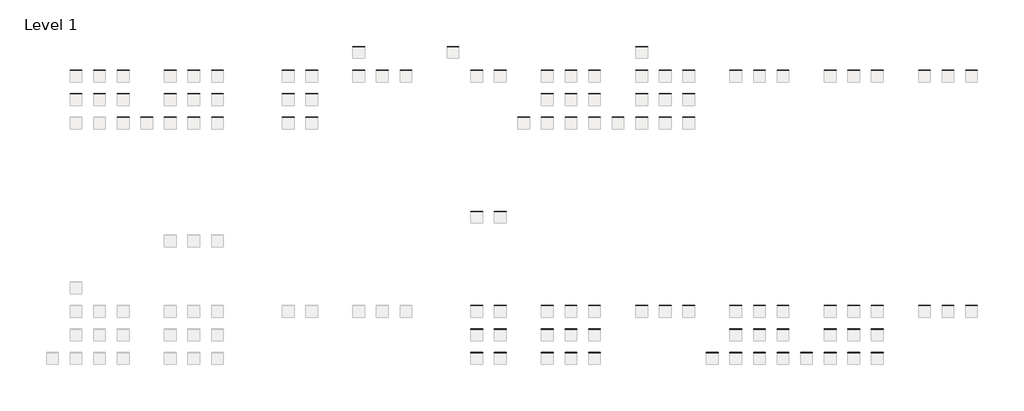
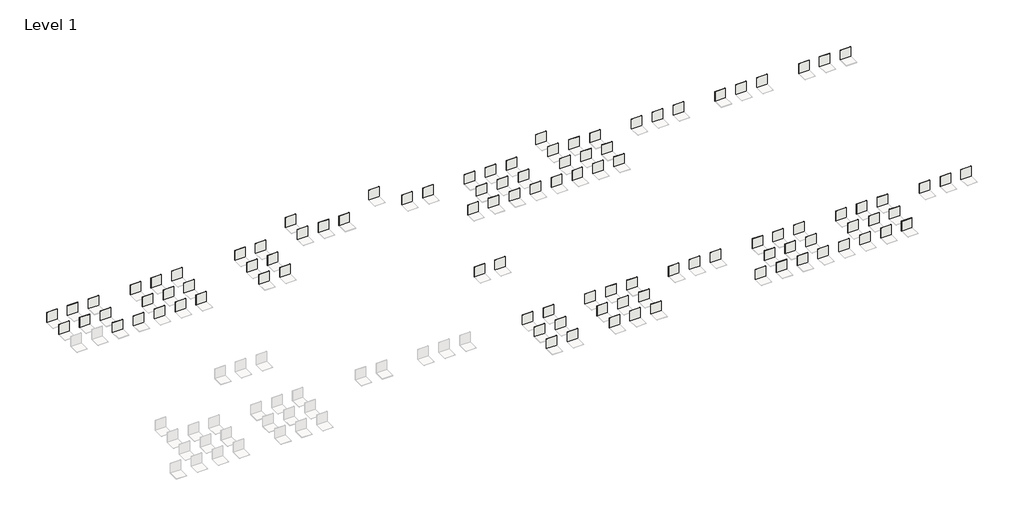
# One storey, part 2 of 4: 103 coverings.
"""IFC4 building model written with IfcOpenShell, lengths in millimetres."""

from ifc_helpers import new_model, si_unit, origin, origin_with_axes, place, context, project, spatial, polyline, outline, extrude, element, save

model = new_model("IFC4")

# Units and contexts
model_context = context("Model", 3, world=origin())
ifc_project = project(units=[si_unit("LENGTHUNIT", "METRE", prefix="MILLI")], contexts=[model_context])

# Site, building, storey
site = spatial("IfcSite", under=ifc_project)
building = spatial("IfcBuilding", under=site)
storey = spatial("IfcBuildingStorey", under=building, Name="Level 1", Elevation=0.0)

# Coverings
placement = place(None, origin())
element("IfcCovering", 1, ObjectType="REVIGRÉS-CROMATICA-BASE-29,7x59,2-MATTRECT-Cromatica_alloy", at=placement, inside=storey, context=model_context, shape_type="SweptSolid", body=[
    extrude(outline(polyline([(3002.0475963, 29398.4324289), (2002.0475963, 29398.4324289), (2002.0475963, 29406.9324289), (3002.0475963, 29406.9324289), (3002.0475963, 29398.4324289)])), origin_with_axes(), (0.0, 0.0, 1.0), 1000.0),
])
element("IfcCovering", 2, ObjectType="REVIGRÉS-CROMATICA-BASE-59,2x59,2-MATTRECT-Cromatica_alloy", at=placement, inside=storey, context=model_context, shape_type="SweptSolid", body=[
    extrude(outline(polyline([(3002.0475963, 31398.4324289), (2002.0475963, 31398.4324289), (2002.0475963, 31406.9324289), (3002.0475963, 31406.9324289), (3002.0475963, 31398.4324289)])), origin_with_axes(), (0.0, 0.0, 1.0), 1000.0),
])
element("IfcCovering", 3, ObjectType="REVIGRÉS-CROMATICA-BASE-29,7x59,2-POL-Cromatica_alloy", at=placement, inside=storey, context=model_context, shape_type="SweptSolid", body=[
    extrude(outline(polyline([(5002.0475963, 29398.4324289), (4002.0475963, 29398.4324289), (4002.0475963, 29406.4324289), (5002.0475963, 29406.4324289), (5002.0475963, 29398.4324289)])), origin_with_axes(), (0.0, 0.0, 1.0), 1000.0),
])
element("IfcCovering", 4, ObjectType="REVIGRÉS-CROMATICA-BASE-59,2x59,2-POL-Cromatica_alloy", at=placement, inside=storey, context=model_context, shape_type="SweptSolid", body=[
    extrude(outline(polyline([(5002.0475963, 31398.4324289), (4002.0475963, 31398.4324289), (4002.0475963, 31406.4324289), (5002.0475963, 31406.4324289), (5002.0475963, 31398.4324289)])), origin_with_axes(), (0.0, 0.0, 1.0), 1000.0),
])
element("IfcCovering", 5, ObjectType="REVIGRÉS-CROMATICA-BASE-29,7x29,7-SOFT-Cromatica_alloy", at=placement, inside=storey, context=model_context, shape_type="SweptSolid", body=[
    extrude(outline(polyline([(7002.0475963, 27398.4324289), (6002.0475963, 27398.4324289), (6002.0475963, 27406.9324289), (7002.0475963, 27406.9324289), (7002.0475963, 27398.4324289)])), origin_with_axes(), (0.0, 0.0, 1.0), 1000.0),
])
element("IfcCovering", 6, ObjectType="REVIGRÉS-CROMATICA-BASE-29,7x59,2-SOFT-Cromatica_alloy", at=placement, inside=storey, context=model_context, shape_type="SweptSolid", body=[
    extrude(outline(polyline([(7002.0475963, 29398.4324289), (6002.0475963, 29398.4324289), (6002.0475963, 29406.9324289), (7002.0475963, 29406.9324289), (7002.0475963, 29398.4324289)])), origin_with_axes(), (0.0, 0.0, 1.0), 1000.0),
])
element("IfcCovering", 7, ObjectType="REVIGRÉS-CROMATICA-BASE-59,2x59,2-SOFT-Cromatica_alloy", at=placement, inside=storey, context=model_context, shape_type="SweptSolid", body=[
    extrude(outline(polyline([(7002.0475963, 31398.4324289), (6002.0475963, 31398.4324289), (6002.0475963, 31406.9324289), (7002.0475963, 31406.9324289), (7002.0475963, 31398.4324289)])), origin_with_axes(), (0.0, 0.0, 1.0), 1000.0),
])
element("IfcCovering", 8, ObjectType="REVIGRÉS-CROMATICA-BASE-29,7x29,7-MATTRECT-Cromatica_anis", at=placement, inside=storey, context=model_context, shape_type="SweptSolid", body=[
    extrude(outline(polyline([(11002.0475963, 27398.4324289), (10002.0475963, 27398.4324289), (10002.0475963, 27406.9324289), (11002.0475963, 27406.9324289), (11002.0475963, 27398.4324289)])), origin_with_axes(), (0.0, 0.0, 1.0), 1000.0),
])
element("IfcCovering", 9, ObjectType="REVIGRÉS-CROMATICA-BASE-29,7x59,2-MATTRECT-Cromatica_anis", at=placement, inside=storey, context=model_context, shape_type="SweptSolid", body=[
    extrude(outline(polyline([(11002.0475963, 29398.4324289), (10002.0475963, 29398.4324289), (10002.0475963, 29406.9324289), (11002.0475963, 29406.9324289), (11002.0475963, 29398.4324289)])), origin_with_axes(), (0.0, 0.0, 1.0), 1000.0),
])
element("IfcCovering", 10, ObjectType="REVIGRÉS-CROMATICA-BASE-59,2x59,2-MATTRECT-Cromatica_anis", at=placement, inside=storey, context=model_context, shape_type="SweptSolid", body=[
    extrude(outline(polyline([(11002.0475963, 31398.4324289), (10002.0475963, 31398.4324289), (10002.0475963, 31406.9324289), (11002.0475963, 31406.9324289), (11002.0475963, 31398.4324289)])), origin_with_axes(), (0.0, 0.0, 1.0), 1000.0),
])
element("IfcCovering", 11, ObjectType="REVIGRÉS-CROMATICA-BASE-29,7x29,7-POL-Cromatica_anis", at=placement, inside=storey, context=model_context, shape_type="SweptSolid", body=[
    extrude(outline(polyline([(13002.0475963, 27398.6824289), (12002.0475963, 27398.6824289), (12002.0475963, 27406.6824289), (13002.0475963, 27406.6824289), (13002.0475963, 27398.6824289)])), origin_with_axes(), (0.0, 0.0, 1.0), 1000.0),
])
element("IfcCovering", 12, ObjectType="REVIGRÉS-CROMATICA-BASE-29,7x59,2-POL-Cromatica_anis", at=placement, inside=storey, context=model_context, shape_type="SweptSolid", body=[
    extrude(outline(polyline([(13002.0475963, 29398.4324289), (12002.0475963, 29398.4324289), (12002.0475963, 29406.4324289), (13002.0475963, 29406.4324289), (13002.0475963, 29398.4324289)])), origin_with_axes(), (0.0, 0.0, 1.0), 1000.0),
])
element("IfcCovering", 13, ObjectType="REVIGRÉS-CROMATICA-BASE-59,2x59,2-POL-Cromatica_anis", at=placement, inside=storey, context=model_context, shape_type="SweptSolid", body=[
    extrude(outline(polyline([(13002.0475963, 31398.4324289), (12002.0475963, 31398.4324289), (12002.0475963, 31406.4324289), (13002.0475963, 31406.4324289), (13002.0475963, 31398.4324289)])), origin_with_axes(), (0.0, 0.0, 1.0), 1000.0),
])
element("IfcCovering", 14, ObjectType="REVIGRÉS-CROMATICA-BASE-29,7x29,7-SOFT-Cromatica_anis", at=placement, inside=storey, context=model_context, shape_type="SweptSolid", body=[
    extrude(outline(polyline([(15002.0475963, 27398.4324289), (14002.0475963, 27398.4324289), (14002.0475963, 27406.9324289), (15002.0475963, 27406.9324289), (15002.0475963, 27398.4324289)])), origin_with_axes(), (0.0, 0.0, 1.0), 1000.0),
])
element("IfcCovering", 15, ObjectType="REVIGRÉS-CROMATICA-BASE-29,7x59,2-SOFT-Cromatica_anis", at=placement, inside=storey, context=model_context, shape_type="SweptSolid", body=[
    extrude(outline(polyline([(15002.0475963, 29398.4324289), (14002.0475963, 29398.4324289), (14002.0475963, 29406.9324289), (15002.0475963, 29406.9324289), (15002.0475963, 29398.4324289)])), origin_with_axes(), (0.0, 0.0, 1.0), 1000.0),
])
element("IfcCovering", 16, ObjectType="REVIGRÉS-CROMATICA-BASE-59,2x59,2-SOFT-Cromatica_anis", at=placement, inside=storey, context=model_context, shape_type="SweptSolid", body=[
    extrude(outline(polyline([(15002.0475963, 31398.4324289), (14002.0475963, 31398.4324289), (14002.0475963, 31406.9324289), (15002.0475963, 31406.9324289), (15002.0475963, 31398.4324289)])), origin_with_axes(), (0.0, 0.0, 1.0), 1000.0),
])
element("IfcCovering", 17, ObjectType="REVIGRÉS-CROMATICA-BASE-29,7x29,7-POL-Cromatica_antracite", at=placement, inside=storey, context=model_context, shape_type="SweptSolid", body=[
    extrude(outline(polyline([(21002.0475963, 27398.6824289), (20002.0475963, 27398.6824289), (20002.0475963, 27406.6824289), (21002.0475963, 27406.6824289), (21002.0475963, 27398.6824289)])), origin_with_axes(), (0.0, 0.0, 1.0), 1000.0),
])
element("IfcCovering", 18, ObjectType="REVIGRÉS-CROMATICA-BASE-29,7x59,2-POL-Cromatica_antracite", at=placement, inside=storey, context=model_context, shape_type="SweptSolid", body=[
    extrude(outline(polyline([(21002.0475963, 29398.4324289), (20002.0475963, 29398.4324289), (20002.0475963, 29406.4324289), (21002.0475963, 29406.4324289), (21002.0475963, 29398.4324289)])), origin_with_axes(), (0.0, 0.0, 1.0), 1000.0),
])
element("IfcCovering", 19, ObjectType="REVIGRÉS-CROMATICA-BASE-59,2x59,2-POL-Cromatica_antracite", at=placement, inside=storey, context=model_context, shape_type="SweptSolid", body=[
    extrude(outline(polyline([(21002.0475963, 31398.4324289), (20002.0475963, 31398.4324289), (20002.0475963, 31406.4324289), (21002.0475963, 31406.4324289), (21002.0475963, 31398.4324289)])), origin_with_axes(), (0.0, 0.0, 1.0), 1000.0),
])
element("IfcCovering", 20, ObjectType="REVIGRÉS-CROMATICA-BASE-29,7x29,7-SOFT-Cromatica_antracite", at=placement, inside=storey, context=model_context, shape_type="SweptSolid", body=[
    extrude(outline(polyline([(23002.0475963, 27398.4324289), (22002.0475963, 27398.4324289), (22002.0475963, 27406.9324289), (23002.0475963, 27406.9324289), (23002.0475963, 27398.4324289)])), origin_with_axes(), (0.0, 0.0, 1.0), 1000.0),
])
element("IfcCovering", 21, ObjectType="REVIGRÉS-CROMATICA-BASE-29,7x59,2-SOFT-Cromatica_antracite", at=placement, inside=storey, context=model_context, shape_type="SweptSolid", body=[
    extrude(outline(polyline([(23002.0475963, 29398.4324289), (22002.0475963, 29398.4324289), (22002.0475963, 29406.9324289), (23002.0475963, 29406.9324289), (23002.0475963, 29398.4324289)])), origin_with_axes(), (0.0, 0.0, 1.0), 1000.0),
])
element("IfcCovering", 22, ObjectType="REVIGRÉS-CROMATICA-BASE-59,2x59,2-SOFT-Cromatica_antracite", at=placement, inside=storey, context=model_context, shape_type="SweptSolid", body=[
    extrude(outline(polyline([(23002.0475963, 31398.4324289), (22002.0475963, 31398.4324289), (22002.0475963, 31406.9324289), (23002.0475963, 31406.9324289), (23002.0475963, 31398.4324289)])), origin_with_axes(), (0.0, 0.0, 1.0), 1000.0),
])
element("IfcCovering", 23, ObjectType="REVIGRÉS-CROMATICA-BASE-59,2x59,2-MATTRECT-Cromatica_arg prata", at=placement, inside=storey, context=model_context, shape_type="SweptSolid", body=[
    extrude(outline(polyline([(27002.0475963, 31398.4324289), (26002.0475963, 31398.4324289), (26002.0475963, 31406.9324289), (27002.0475963, 31406.9324289), (27002.0475963, 31398.4324289)])), origin_with_axes(), (0.0, 0.0, 1.0), 1000.0),
])
element("IfcCovering", 24, ObjectType="REVIGRÉS-CROMATICA-BASE-59,2x59,2_14mm-MATTRECT-Cromatica_arg prata", at=placement, inside=storey, context=model_context, shape_type="SweptSolid", body=[
    extrude(outline(polyline([(27002.0475963, 33398.4324289), (26002.0475963, 33398.4324289), (26002.0475963, 33412.4324289), (27002.0475963, 33412.4324289), (27002.0475963, 33398.4324289)])), origin_with_axes(), (0.0, 0.0, 1.0), 1000.0),
])
element("IfcCovering", 25, ObjectType="REVIGRÉS-CROMATICA-BASE-59,2x59,2-POL-Cromatica_arg prata", at=placement, inside=storey, context=model_context, shape_type="SweptSolid", body=[
    extrude(outline(polyline([(29002.0475963, 31398.4324289), (28002.0475963, 31398.4324289), (28002.0475963, 31406.4324289), (29002.0475963, 31406.4324289), (29002.0475963, 31398.4324289)])), origin_with_axes(), (0.0, 0.0, 1.0), 1000.0),
])
element("IfcCovering", 26, ObjectType="REVIGRÉS-CROMATICA-BASE-59,2x59,2-SOFT-Cromatica_arg prata", at=placement, inside=storey, context=model_context, shape_type="SweptSolid", body=[
    extrude(outline(polyline([(31002.0475963, 31398.4324289), (30002.0475963, 31398.4324289), (30002.0475963, 31406.9324289), (31002.0475963, 31406.9324289), (31002.0475963, 31398.4324289)])), origin_with_axes(), (0.0, 0.0, 1.0), 1000.0),
])
element("IfcCovering", 27, ObjectType="REVIGRÉS-CROMATICA-BASE-59,2x59,2_14mm-MATTRECT-Cromatica_astral", at=placement, inside=storey, context=model_context, shape_type="SweptSolid", body=[
    extrude(outline(polyline([(35002.0475963, 33398.4324289), (34002.0475963, 33398.4324289), (34002.0475963, 33412.4324289), (35002.0475963, 33412.4324289), (35002.0475963, 33398.4324289)])), origin_with_axes(), (0.0, 0.0, 1.0), 1000.0),
])
element("IfcCovering", 28, ObjectType="REVIGRÉS-CROMATICA-BASE-59,2x59,2-POL-Cromatica_astral", at=placement, inside=storey, context=model_context, shape_type="SweptSolid", body=[
    extrude(outline(polyline([(37002.0475963, 31398.4324289), (36002.0475963, 31398.4324289), (36002.0475963, 31406.4324289), (37002.0475963, 31406.4324289), (37002.0475963, 31398.4324289)])), origin_with_axes(), (0.0, 0.0, 1.0), 1000.0),
])
element("IfcCovering", 29, ObjectType="REVIGRÉS-CROMATICA-BASE-59,2x59,2-SOFT-Cromatica_astral", at=placement, inside=storey, context=model_context, shape_type="SweptSolid", body=[
    extrude(outline(polyline([(39002.0475963, 31398.4324289), (38002.0475963, 31398.4324289), (38002.0475963, 31406.9324289), (39002.0475963, 31406.9324289), (39002.0475963, 31398.4324289)])), origin_with_axes(), (0.0, 0.0, 1.0), 1000.0),
])
element("IfcCovering", 30, ObjectType="REVIGRÉS-CROMATICA-BASE-29,7x29,7-MATTRECT-Cromatica_bege", at=placement, inside=storey, context=model_context, shape_type="SweptSolid", body=[
    extrude(outline(polyline([(43002.0475963, 27398.4324289), (42002.0475963, 27398.4324289), (42002.0475963, 27406.9324289), (43002.0475963, 27406.9324289), (43002.0475963, 27398.4324289)])), origin_with_axes(), (0.0, 0.0, 1.0), 1000.0),
])
element("IfcCovering", 31, ObjectType="REVIGRÉS-CROMATICA-BASE-29,7x59,2-MATTRECT-Cromatica_bege", at=placement, inside=storey, context=model_context, shape_type="SweptSolid", body=[
    extrude(outline(polyline([(43002.0475963, 29398.4324289), (42002.0475963, 29398.4324289), (42002.0475963, 29406.9324289), (43002.0475963, 29406.9324289), (43002.0475963, 29398.4324289)])), origin_with_axes(), (0.0, 0.0, 1.0), 1000.0),
])
element("IfcCovering", 32, ObjectType="REVIGRÉS-CROMATICA-BASE-59,2x59,2-MATTRECT-Cromatica_bege", at=placement, inside=storey, context=model_context, shape_type="SweptSolid", body=[
    extrude(outline(polyline([(43002.0475963, 31398.4324289), (42002.0475963, 31398.4324289), (42002.0475963, 31406.9324289), (43002.0475963, 31406.9324289), (43002.0475963, 31398.4324289)])), origin_with_axes(), (0.0, 0.0, 1.0), 1000.0),
])
element("IfcCovering", 33, ObjectType="REVIGRÉS-CROMATICA-BASE-29,7x29,7-POL-Cromatica_bege", at=placement, inside=storey, context=model_context, shape_type="SweptSolid", body=[
    extrude(outline(polyline([(45002.0475963, 27398.6824289), (44002.0475963, 27398.6824289), (44002.0475963, 27406.6824289), (45002.0475963, 27406.6824289), (45002.0475963, 27398.6824289)])), origin_with_axes(), (0.0, 0.0, 1.0), 1000.0),
])
element("IfcCovering", 34, ObjectType="REVIGRÉS-CROMATICA-BASE-29,7x59,2-POL-Cromatica_bege", at=placement, inside=storey, context=model_context, shape_type="SweptSolid", body=[
    extrude(outline(polyline([(45002.0475963, 29398.4324289), (44002.0475963, 29398.4324289), (44002.0475963, 29406.4324289), (45002.0475963, 29406.4324289), (45002.0475963, 29398.4324289)])), origin_with_axes(), (0.0, 0.0, 1.0), 1000.0),
])
element("IfcCovering", 35, ObjectType="REVIGRÉS-CROMATICA-BASE-59,2x59,2-POL-Cromatica_bege", at=placement, inside=storey, context=model_context, shape_type="SweptSolid", body=[
    extrude(outline(polyline([(45002.0475963, 31398.4324289), (44002.0475963, 31398.4324289), (44002.0475963, 31406.4324289), (45002.0475963, 31406.4324289), (45002.0475963, 31398.4324289)])), origin_with_axes(), (0.0, 0.0, 1.0), 1000.0),
])
element("IfcCovering", 36, ObjectType="REVIGRÉS-CROMATICA-BASE-29,7x29,7-SOFT-Cromatica_bege", at=placement, inside=storey, context=model_context, shape_type="SweptSolid", body=[
    extrude(outline(polyline([(47002.0475963, 27398.4324289), (46002.0475963, 27398.4324289), (46002.0475963, 27406.9324289), (47002.0475963, 27406.9324289), (47002.0475963, 27398.4324289)])), origin_with_axes(), (0.0, 0.0, 1.0), 1000.0),
])
element("IfcCovering", 37, ObjectType="REVIGRÉS-CROMATICA-BASE-29,7x59,2-SOFT-Cromatica_bege", at=placement, inside=storey, context=model_context, shape_type="SweptSolid", body=[
    extrude(outline(polyline([(47002.0475963, 29398.4324289), (46002.0475963, 29398.4324289), (46002.0475963, 29406.9324289), (47002.0475963, 29406.9324289), (47002.0475963, 29398.4324289)])), origin_with_axes(), (0.0, 0.0, 1.0), 1000.0),
])
element("IfcCovering", 38, ObjectType="REVIGRÉS-CROMATICA-BASE-59,2x59,2-SOFT-Cromatica_bege", at=placement, inside=storey, context=model_context, shape_type="SweptSolid", body=[
    extrude(outline(polyline([(47002.0475963, 31398.4324289), (46002.0475963, 31398.4324289), (46002.0475963, 31406.9324289), (47002.0475963, 31406.9324289), (47002.0475963, 31398.4324289)])), origin_with_axes(), (0.0, 0.0, 1.0), 1000.0),
])
element("IfcCovering", 39, ObjectType="REVIGRÉS-CROMATICA-BASE-29,7x29,7-MATTRECT-Cromatica_bone", at=placement, inside=storey, context=model_context, shape_type="SweptSolid", body=[
    extrude(outline(polyline([(51002.0475963, 27398.4324289), (50002.0475963, 27398.4324289), (50002.0475963, 27406.9324289), (51002.0475963, 27406.9324289), (51002.0475963, 27398.4324289)])), origin_with_axes(), (0.0, 0.0, 1.0), 1000.0),
])
element("IfcCovering", 40, ObjectType="REVIGRÉS-CROMATICA-BASE-29,7x59,2-MATTRECT-Cromatica_bone", at=placement, inside=storey, context=model_context, shape_type="SweptSolid", body=[
    extrude(outline(polyline([(51002.0475963, 29398.4324289), (50002.0475963, 29398.4324289), (50002.0475963, 29406.9324289), (51002.0475963, 29406.9324289), (51002.0475963, 29398.4324289)])), origin_with_axes(), (0.0, 0.0, 1.0), 1000.0),
])
element("IfcCovering", 41, ObjectType="REVIGRÉS-CROMATICA-BASE-59,2x59,2-MATTRECT-Cromatica_bone", at=placement, inside=storey, context=model_context, shape_type="SweptSolid", body=[
    extrude(outline(polyline([(51002.0475963, 31398.4324289), (50002.0475963, 31398.4324289), (50002.0475963, 31406.9324289), (51002.0475963, 31406.9324289), (51002.0475963, 31398.4324289)])), origin_with_axes(), (0.0, 0.0, 1.0), 1000.0),
])
element("IfcCovering", 42, ObjectType="REVIGRÉS-CROMATICA-BASE-59,2x59,2_14mm-MATTRECT-Cromatica_bone", at=placement, inside=storey, context=model_context, shape_type="SweptSolid", body=[
    extrude(outline(polyline([(51002.0475963, 33398.4324289), (50002.0475963, 33398.4324289), (50002.0475963, 33412.4324289), (51002.0475963, 33412.4324289), (51002.0475963, 33398.4324289)])), origin_with_axes(), (0.0, 0.0, 1.0), 1000.0),
])
element("IfcCovering", 43, ObjectType="REVIGRÉS-CROMATICA-BASE-29,7x29,7-POL-Cromatica_bone", at=placement, inside=storey, context=model_context, shape_type="SweptSolid", body=[
    extrude(outline(polyline([(53002.0475963, 27398.6824289), (52002.0475963, 27398.6824289), (52002.0475963, 27406.6824289), (53002.0475963, 27406.6824289), (53002.0475963, 27398.6824289)])), origin_with_axes(), (0.0, 0.0, 1.0), 1000.0),
])
element("IfcCovering", 44, ObjectType="REVIGRÉS-CROMATICA-BASE-29,7x59,2-POL-Cromatica_bone", at=placement, inside=storey, context=model_context, shape_type="SweptSolid", body=[
    extrude(outline(polyline([(53002.0475963, 29398.4324289), (52002.0475963, 29398.4324289), (52002.0475963, 29406.4324289), (53002.0475963, 29406.4324289), (53002.0475963, 29398.4324289)])), origin_with_axes(), (0.0, 0.0, 1.0), 1000.0),
])
element("IfcCovering", 45, ObjectType="REVIGRÉS-CROMATICA-BASE-59,2x59,2-POL-Cromatica_bone", at=placement, inside=storey, context=model_context, shape_type="SweptSolid", body=[
    extrude(outline(polyline([(53002.0475963, 31398.4324289), (52002.0475963, 31398.4324289), (52002.0475963, 31406.4324289), (53002.0475963, 31406.4324289), (53002.0475963, 31398.4324289)])), origin_with_axes(), (0.0, 0.0, 1.0), 1000.0),
])
element("IfcCovering", 46, ObjectType="REVIGRÉS-CROMATICA-BASE-29,7x29,7-SOFT-Cromatica_bone", at=placement, inside=storey, context=model_context, shape_type="SweptSolid", body=[
    extrude(outline(polyline([(55002.0475963, 27398.4324289), (54002.0475963, 27398.4324289), (54002.0475963, 27406.9324289), (55002.0475963, 27406.9324289), (55002.0475963, 27398.4324289)])), origin_with_axes(), (0.0, 0.0, 1.0), 1000.0),
])
element("IfcCovering", 47, ObjectType="REVIGRÉS-CROMATICA-BASE-29,7x59,2-SOFT-Cromatica_bone", at=placement, inside=storey, context=model_context, shape_type="SweptSolid", body=[
    extrude(outline(polyline([(55002.0475963, 29398.4324289), (54002.0475963, 29398.4324289), (54002.0475963, 29406.9324289), (55002.0475963, 29406.9324289), (55002.0475963, 29398.4324289)])), origin_with_axes(), (0.0, 0.0, 1.0), 1000.0),
])
element("IfcCovering", 48, ObjectType="REVIGRÉS-CROMATICA-BASE-59,2x59,2-SOFT-Cromatica_bone", at=placement, inside=storey, context=model_context, shape_type="SweptSolid", body=[
    extrude(outline(polyline([(55002.0475963, 31398.4324289), (54002.0475963, 31398.4324289), (54002.0475963, 31406.9324289), (55002.0475963, 31406.9324289), (55002.0475963, 31398.4324289)])), origin_with_axes(), (0.0, 0.0, 1.0), 1000.0),
])
element("IfcCovering", 49, ObjectType="REVIGRÉS-CROMATICA-BASE-29,7x29,7-MATTNAT-Cromatica_bone", at=placement, inside=storey, context=model_context, shape_type="SweptSolid", body=[
    extrude(outline(polyline([(49002.0475963, 27398.0324289), (48002.0475963, 27398.0324289), (48002.0475963, 27406.5324289), (49002.0475963, 27406.5324289), (49002.0475963, 27398.0324289)])), origin_with_axes(), (0.0, 0.0, 1.0), 1000.0),
])
element("IfcCovering", 50, ObjectType="REVIGRÉS-CROMATICA-BASE-59,2x59,2-MATTRECT-Cromatica_brick", at=placement, inside=storey, context=model_context, shape_type="SweptSolid", body=[
    extrude(outline(polyline([(59002.0475963, 31398.4324289), (58002.0475963, 31398.4324289), (58002.0475963, 31406.9324289), (59002.0475963, 31406.9324289), (59002.0475963, 31398.4324289)])), origin_with_axes(), (0.0, 0.0, 1.0), 1000.0),
])
element("IfcCovering", 51, ObjectType="REVIGRÉS-CROMATICA-BASE-59,2x59,2-POL-Cromatica_brick", at=placement, inside=storey, context=model_context, shape_type="SweptSolid", body=[
    extrude(outline(polyline([(61002.0475963, 31398.4324289), (60002.0475963, 31398.4324289), (60002.0475963, 31406.4324289), (61002.0475963, 31406.4324289), (61002.0475963, 31398.4324289)])), origin_with_axes(), (0.0, 0.0, 1.0), 1000.0),
])
element("IfcCovering", 52, ObjectType="REVIGRÉS-CROMATICA-BASE-59,2x59,2-SOFT-Cromatica_brick", at=placement, inside=storey, context=model_context, shape_type="SweptSolid", body=[
    extrude(outline(polyline([(63002.0475963, 31398.4324289), (62002.0475963, 31398.4324289), (62002.0475963, 31406.9324289), (63002.0475963, 31406.9324289), (63002.0475963, 31398.4324289)])), origin_with_axes(), (0.0, 0.0, 1.0), 1000.0),
])
element("IfcCovering", 53, ObjectType="REVIGRÉS-CROMATICA-BASE-59,2x59,2-MATTRECT-Cromatica_cobalto", at=placement, inside=storey, context=model_context, shape_type="SweptSolid", body=[
    extrude(outline(polyline([(67002.0475963, 31398.4324289), (66002.0475963, 31398.4324289), (66002.0475963, 31406.9324289), (67002.0475963, 31406.9324289), (67002.0475963, 31398.4324289)])), origin_with_axes(), (0.0, 0.0, 1.0), 1000.0),
])
element("IfcCovering", 54, ObjectType="REVIGRÉS-CROMATICA-BASE-59,2x59,2-POL-Cromatica_cobalto", at=placement, inside=storey, context=model_context, shape_type="SweptSolid", body=[
    extrude(outline(polyline([(69002.0475963, 31398.4324289), (68002.0475963, 31398.4324289), (68002.0475963, 31406.4324289), (69002.0475963, 31406.4324289), (69002.0475963, 31398.4324289)])), origin_with_axes(), (0.0, 0.0, 1.0), 1000.0),
])
element("IfcCovering", 55, ObjectType="REVIGRÉS-CROMATICA-BASE-59,2x59,2-SOFT-Cromatica_cobalto", at=placement, inside=storey, context=model_context, shape_type="SweptSolid", body=[
    extrude(outline(polyline([(71002.0475963, 31398.4324289), (70002.0475963, 31398.4324289), (70002.0475963, 31406.9324289), (71002.0475963, 31406.9324289), (71002.0475963, 31398.4324289)])), origin_with_axes(), (0.0, 0.0, 1.0), 1000.0),
])
element("IfcCovering", 56, ObjectType="REVIGRÉS-CROMATICA-BASE-59,2x59,2-MATTRECT-Cromatica_coral", at=placement, inside=storey, context=model_context, shape_type="SweptSolid", body=[
    extrude(outline(polyline([(75002.0475963, 31398.4324289), (74002.0475963, 31398.4324289), (74002.0475963, 31406.9324289), (75002.0475963, 31406.9324289), (75002.0475963, 31398.4324289)])), origin_with_axes(), (0.0, 0.0, 1.0), 1000.0),
])
element("IfcCovering", 57, ObjectType="REVIGRÉS-CROMATICA-BASE-59,2x59,2-POL-Cromatica_coral", at=placement, inside=storey, context=model_context, shape_type="SweptSolid", body=[
    extrude(outline(polyline([(77002.0475963, 31398.4324289), (76002.0475963, 31398.4324289), (76002.0475963, 31406.4324289), (77002.0475963, 31406.4324289), (77002.0475963, 31398.4324289)])), origin_with_axes(), (0.0, 0.0, 1.0), 1000.0),
])
element("IfcCovering", 58, ObjectType="REVIGRÉS-CROMATICA-BASE-59,2x59,2-SOFT-Cromatica_coral", at=placement, inside=storey, context=model_context, shape_type="SweptSolid", body=[
    extrude(outline(polyline([(79002.0475963, 31398.4324289), (78002.0475963, 31398.4324289), (78002.0475963, 31406.9324289), (79002.0475963, 31406.9324289), (79002.0475963, 31398.4324289)])), origin_with_axes(), (0.0, 0.0, 1.0), 1000.0),
])
element("IfcCovering", 59, ObjectType="REVIGRÉS-CROMATICA-BASE-29,7x29,7-POL-Cromatica_jet", at=placement, inside=storey, context=model_context, shape_type="SweptSolid", body=[
    extrude(outline(polyline([(37002.0475963, 7398.682429), (36002.0475963, 7398.682429), (36002.0475963, 7406.682429), (37002.0475963, 7406.682429), (37002.0475963, 7398.682429)])), origin_with_axes(), (0.0, 0.0, 1.0), 1000.0),
])
element("IfcCovering", 60, ObjectType="REVIGRÉS-CROMATICA-BASE-29,7x59,2-POL-Cromatica_jet", at=placement, inside=storey, context=model_context, shape_type="SweptSolid", body=[
    extrude(outline(polyline([(37002.0475963, 9398.432429), (36002.0475963, 9398.432429), (36002.0475963, 9406.432429), (37002.0475963, 9406.432429), (37002.0475963, 9398.432429)])), origin_with_axes(), (0.0, 0.0, 1.0), 1000.0),
])
element("IfcCovering", 61, ObjectType="REVIGRÉS-CROMATICA-BASE-59,2x59,2-POL-Cromatica_jet", at=placement, inside=storey, context=model_context, shape_type="SweptSolid", body=[
    extrude(outline(polyline([(37002.0475963, 11398.432429), (36002.0475963, 11398.432429), (36002.0475963, 11406.432429), (37002.0475963, 11406.432429), (37002.0475963, 11398.432429)])), origin_with_axes(), (0.0, 0.0, 1.0), 1000.0),
])
element("IfcCovering", 62, ObjectType="REVIGRÉS-CROMATICA-BASE-88,9x88,9-POL-Cromatica_jet", at=placement, inside=storey, context=model_context, shape_type="SweptSolid", body=[
    extrude(outline(polyline([(37002.0475963, 19398.432429), (36002.0475963, 19398.432429), (36002.0475963, 19408.232429), (37002.0475963, 19408.232429), (37002.0475963, 19398.432429)])), origin_with_axes(), (0.0, 0.0, 1.0), 1000.0),
])
element("IfcCovering", 63, ObjectType="REVIGRÉS-CROMATICA-BASE-29,7x29,7-SOFT-Cromatica_jet", at=placement, inside=storey, context=model_context, shape_type="SweptSolid", body=[
    extrude(outline(polyline([(39002.0475963, 7398.432429), (38002.0475963, 7398.432429), (38002.0475963, 7406.932429), (39002.0475963, 7406.932429), (39002.0475963, 7398.432429)])), origin_with_axes(), (0.0, 0.0, 1.0), 1000.0),
])
element("IfcCovering", 64, ObjectType="REVIGRÉS-CROMATICA-BASE-29,7x59,2-SOFT-Cromatica_jet", at=placement, inside=storey, context=model_context, shape_type="SweptSolid", body=[
    extrude(outline(polyline([(39002.0475963, 9398.432429), (38002.0475963, 9398.432429), (38002.0475963, 9406.932429), (39002.0475963, 9406.932429), (39002.0475963, 9398.432429)])), origin_with_axes(), (0.0, 0.0, 1.0), 1000.0),
])
element("IfcCovering", 65, ObjectType="REVIGRÉS-CROMATICA-BASE-59,2x59,2-SOFT-Cromatica_jet", at=placement, inside=storey, context=model_context, shape_type="SweptSolid", body=[
    extrude(outline(polyline([(39002.0475963, 11398.432429), (38002.0475963, 11398.432429), (38002.0475963, 11406.932429), (39002.0475963, 11406.932429), (39002.0475963, 11398.432429)])), origin_with_axes(), (0.0, 0.0, 1.0), 1000.0),
])
element("IfcCovering", 66, ObjectType="REVIGRÉS-CROMATICA-BASE-88,9x88,9-SOFT-Cromatica_jet", at=placement, inside=storey, context=model_context, shape_type="SweptSolid", body=[
    extrude(outline(polyline([(39002.0475963, 19398.432429), (38002.0475963, 19398.432429), (38002.0475963, 19408.932429), (39002.0475963, 19408.932429), (39002.0475963, 19398.432429)])), origin_with_axes(), (0.0, 0.0, 1.0), 1000.0),
])
element("IfcCovering", 67, ObjectType="REVIGRÉS-CROMATICA-BASE-59,2x59,2-MATTRECT-Cromatica_lava", at=placement, inside=storey, context=model_context, shape_type="SweptSolid", body=[
    extrude(outline(polyline([(51002.0475963, 11398.432429), (50002.0475963, 11398.432429), (50002.0475963, 11406.932429), (51002.0475963, 11406.932429), (51002.0475963, 11398.432429)])), origin_with_axes(), (0.0, 0.0, 1.0), 1000.0),
])
element("IfcCovering", 68, ObjectType="REVIGRÉS-CROMATICA-BASE-59,2x59,2-POL-Cromatica_lava", at=placement, inside=storey, context=model_context, shape_type="SweptSolid", body=[
    extrude(outline(polyline([(53002.0475963, 11398.432429), (52002.0475963, 11398.432429), (52002.0475963, 11406.432429), (53002.0475963, 11406.432429), (53002.0475963, 11398.432429)])), origin_with_axes(), (0.0, 0.0, 1.0), 1000.0),
])
element("IfcCovering", 69, ObjectType="REVIGRÉS-CROMATICA-BASE-59,2x59,2-SOFT-Cromatica_lava", at=placement, inside=storey, context=model_context, shape_type="SweptSolid", body=[
    extrude(outline(polyline([(55002.0475963, 11398.432429), (54002.0475963, 11398.432429), (54002.0475963, 11406.932429), (55002.0475963, 11406.932429), (55002.0475963, 11398.432429)])), origin_with_axes(), (0.0, 0.0, 1.0), 1000.0),
])
element("IfcCovering", 70, ObjectType="REVIGRÉS-CROMATICA-BASE-29,7x29,7-MATTRECT-Cromatica_ocre", at=placement, inside=storey, context=model_context, shape_type="SweptSolid", body=[
    extrude(outline(polyline([(59002.0475963, 7398.432429), (58002.0475963, 7398.432429), (58002.0475963, 7406.932429), (59002.0475963, 7406.932429), (59002.0475963, 7398.432429)])), origin_with_axes(), (0.0, 0.0, 1.0), 1000.0),
])
element("IfcCovering", 71, ObjectType="REVIGRÉS-CROMATICA-BASE-29,7x59,2-MATTRECT-Cromatica_ocre", at=placement, inside=storey, context=model_context, shape_type="SweptSolid", body=[
    extrude(outline(polyline([(59002.0475963, 9398.432429), (58002.0475963, 9398.432429), (58002.0475963, 9406.932429), (59002.0475963, 9406.932429), (59002.0475963, 9398.432429)])), origin_with_axes(), (0.0, 0.0, 1.0), 1000.0),
])
element("IfcCovering", 72, ObjectType="REVIGRÉS-CROMATICA-BASE-59,2x59,2-MATTRECT-Cromatica_ocre", at=placement, inside=storey, context=model_context, shape_type="SweptSolid", body=[
    extrude(outline(polyline([(59002.0475963, 11398.432429), (58002.0475963, 11398.432429), (58002.0475963, 11406.932429), (59002.0475963, 11406.932429), (59002.0475963, 11398.432429)])), origin_with_axes(), (0.0, 0.0, 1.0), 1000.0),
])
element("IfcCovering", 73, ObjectType="REVIGRÉS-CROMATICA-BASE-29,7x29,7-POL-Cromatica_ocre", at=placement, inside=storey, context=model_context, shape_type="SweptSolid", body=[
    extrude(outline(polyline([(61002.0475963, 7398.682429), (60002.0475963, 7398.682429), (60002.0475963, 7406.682429), (61002.0475963, 7406.682429), (61002.0475963, 7398.682429)])), origin_with_axes(), (0.0, 0.0, 1.0), 1000.0),
])
element("IfcCovering", 74, ObjectType="REVIGRÉS-CROMATICA-BASE-29,7x59,2-POL-Cromatica_ocre", at=placement, inside=storey, context=model_context, shape_type="SweptSolid", body=[
    extrude(outline(polyline([(61002.0475963, 9398.432429), (60002.0475963, 9398.432429), (60002.0475963, 9406.432429), (61002.0475963, 9406.432429), (61002.0475963, 9398.432429)])), origin_with_axes(), (0.0, 0.0, 1.0), 1000.0),
])
element("IfcCovering", 75, ObjectType="REVIGRÉS-CROMATICA-BASE-59,2x59,2-POL-Cromatica_ocre", at=placement, inside=storey, context=model_context, shape_type="SweptSolid", body=[
    extrude(outline(polyline([(61002.0475963, 11398.432429), (60002.0475963, 11398.432429), (60002.0475963, 11406.432429), (61002.0475963, 11406.432429), (61002.0475963, 11398.432429)])), origin_with_axes(), (0.0, 0.0, 1.0), 1000.0),
])
element("IfcCovering", 76, ObjectType="REVIGRÉS-CROMATICA-BASE-29,7x29,7-SOFT-Cromatica_ocre", at=placement, inside=storey, context=model_context, shape_type="SweptSolid", body=[
    extrude(outline(polyline([(63002.0475963, 7398.432429), (62002.0475963, 7398.432429), (62002.0475963, 7406.932429), (63002.0475963, 7406.932429), (63002.0475963, 7398.432429)])), origin_with_axes(), (0.0, 0.0, 1.0), 1000.0),
])
element("IfcCovering", 77, ObjectType="REVIGRÉS-CROMATICA-BASE-29,7x59,2-SOFT-Cromatica_ocre", at=placement, inside=storey, context=model_context, shape_type="SweptSolid", body=[
    extrude(outline(polyline([(63002.0475963, 9398.432429), (62002.0475963, 9398.432429), (62002.0475963, 9406.932429), (63002.0475963, 9406.932429), (63002.0475963, 9398.432429)])), origin_with_axes(), (0.0, 0.0, 1.0), 1000.0),
])
element("IfcCovering", 78, ObjectType="REVIGRÉS-CROMATICA-BASE-59,2x59,2-SOFT-Cromatica_ocre", at=placement, inside=storey, context=model_context, shape_type="SweptSolid", body=[
    extrude(outline(polyline([(63002.0475963, 11398.432429), (62002.0475963, 11398.432429), (62002.0475963, 11406.932429), (63002.0475963, 11406.932429), (63002.0475963, 11398.432429)])), origin_with_axes(), (0.0, 0.0, 1.0), 1000.0),
])
element("IfcCovering", 79, ObjectType="REVIGRÉS-CROMATICA-BASE-29,7x29,7-MATTRECT-Cromatica_oliva", at=placement, inside=storey, context=model_context, shape_type="SweptSolid", body=[
    extrude(outline(polyline([(67002.0475963, 7398.432429), (66002.0475963, 7398.432429), (66002.0475963, 7406.932429), (67002.0475963, 7406.932429), (67002.0475963, 7398.432429)])), origin_with_axes(), (0.0, 0.0, 1.0), 1000.0),
])
element("IfcCovering", 80, ObjectType="REVIGRÉS-CROMATICA-BASE-29,7x59,2-MATTRECT-Cromatica_oliva", at=placement, inside=storey, context=model_context, shape_type="SweptSolid", body=[
    extrude(outline(polyline([(67002.0475963, 9398.432429), (66002.0475963, 9398.432429), (66002.0475963, 9406.932429), (67002.0475963, 9406.932429), (67002.0475963, 9398.432429)])), origin_with_axes(), (0.0, 0.0, 1.0), 1000.0),
])
element("IfcCovering", 81, ObjectType="REVIGRÉS-CROMATICA-BASE-59,2x59,2-MATTRECT-Cromatica_oliva", at=placement, inside=storey, context=model_context, shape_type="SweptSolid", body=[
    extrude(outline(polyline([(67002.0475963, 11398.432429), (66002.0475963, 11398.432429), (66002.0475963, 11406.932429), (67002.0475963, 11406.932429), (67002.0475963, 11398.432429)])), origin_with_axes(), (0.0, 0.0, 1.0), 1000.0),
])
element("IfcCovering", 82, ObjectType="REVIGRÉS-CROMATICA-BASE-29,7x29,7-POL-Cromatica_oliva", at=placement, inside=storey, context=model_context, shape_type="SweptSolid", body=[
    extrude(outline(polyline([(69002.0475963, 7398.682429), (68002.0475963, 7398.682429), (68002.0475963, 7406.682429), (69002.0475963, 7406.682429), (69002.0475963, 7398.682429)])), origin_with_axes(), (0.0, 0.0, 1.0), 1000.0),
])
element("IfcCovering", 83, ObjectType="REVIGRÉS-CROMATICA-BASE-29,7x59,2-POL-Cromatica_oliva", at=placement, inside=storey, context=model_context, shape_type="SweptSolid", body=[
    extrude(outline(polyline([(69002.0475963, 9398.432429), (68002.0475963, 9398.432429), (68002.0475963, 9406.432429), (69002.0475963, 9406.432429), (69002.0475963, 9398.432429)])), origin_with_axes(), (0.0, 0.0, 1.0), 1000.0),
])
element("IfcCovering", 84, ObjectType="REVIGRÉS-CROMATICA-BASE-59,2x59,2-POL-Cromatica_oliva", at=placement, inside=storey, context=model_context, shape_type="SweptSolid", body=[
    extrude(outline(polyline([(69002.0475963, 11398.432429), (68002.0475963, 11398.432429), (68002.0475963, 11406.432429), (69002.0475963, 11406.432429), (69002.0475963, 11398.432429)])), origin_with_axes(), (0.0, 0.0, 1.0), 1000.0),
])
element("IfcCovering", 85, ObjectType="REVIGRÉS-CROMATICA-BASE-29,7x29,7-SOFT-Cromatica_oliva", at=placement, inside=storey, context=model_context, shape_type="SweptSolid", body=[
    extrude(outline(polyline([(71002.0475963, 7398.432429), (70002.0475963, 7398.432429), (70002.0475963, 7406.932429), (71002.0475963, 7406.932429), (71002.0475963, 7398.432429)])), origin_with_axes(), (0.0, 0.0, 1.0), 1000.0),
])
element("IfcCovering", 86, ObjectType="REVIGRÉS-CROMATICA-BASE-29,7x59,2-SOFT-Cromatica_oliva", at=placement, inside=storey, context=model_context, shape_type="SweptSolid", body=[
    extrude(outline(polyline([(71002.0475963, 9398.432429), (70002.0475963, 9398.432429), (70002.0475963, 9406.932429), (71002.0475963, 9406.932429), (71002.0475963, 9398.432429)])), origin_with_axes(), (0.0, 0.0, 1.0), 1000.0),
])
element("IfcCovering", 87, ObjectType="REVIGRÉS-CROMATICA-BASE-59,2x59,2-SOFT-Cromatica_oliva", at=placement, inside=storey, context=model_context, shape_type="SweptSolid", body=[
    extrude(outline(polyline([(71002.0475963, 11398.432429), (70002.0475963, 11398.432429), (70002.0475963, 11406.932429), (71002.0475963, 11406.932429), (71002.0475963, 11398.432429)])), origin_with_axes(), (0.0, 0.0, 1.0), 1000.0),
])
element("IfcCovering", 88, ObjectType="REVIGRÉS-CROMATICA-BASE-59,2x59,2-MATTRECT-Cromatica_opala", at=placement, inside=storey, context=model_context, shape_type="SweptSolid", body=[
    extrude(outline(polyline([(75002.0475963, 11398.432429), (74002.0475963, 11398.432429), (74002.0475963, 11406.932429), (75002.0475963, 11406.932429), (75002.0475963, 11398.432429)])), origin_with_axes(), (0.0, 0.0, 1.0), 1000.0),
])
element("IfcCovering", 89, ObjectType="REVIGRÉS-CROMATICA-BASE-59,2x59,2-POL-Cromatica_opala", at=placement, inside=storey, context=model_context, shape_type="SweptSolid", body=[
    extrude(outline(polyline([(77002.0475963, 11398.432429), (76002.0475963, 11398.432429), (76002.0475963, 11406.432429), (77002.0475963, 11406.432429), (77002.0475963, 11398.432429)])), origin_with_axes(), (0.0, 0.0, 1.0), 1000.0),
])
element("IfcCovering", 90, ObjectType="REVIGRÉS-CROMATICA-BASE-59,2x59,2-SOFT-Cromatica_opala", at=placement, inside=storey, context=model_context, shape_type="SweptSolid", body=[
    extrude(outline(polyline([(79002.0475963, 11398.432429), (78002.0475963, 11398.432429), (78002.0475963, 11406.932429), (79002.0475963, 11406.932429), (79002.0475963, 11398.432429)])), origin_with_axes(), (0.0, 0.0, 1.0), 1000.0),
])
element("IfcCovering", 91, ObjectType="REVIGRÉS-CROMATICA-BASE-29,7x29,7-MATTNAT-Cromatica_anis", at=placement, inside=storey, context=model_context, shape_type="SweptSolid", body=[
    extrude(outline(polyline([(9002.0475963, 27398.4324289), (8002.0475963, 27398.4324289), (8002.0475963, 27406.9324289), (9002.0475963, 27406.9324289), (9002.0475963, 27398.4324289)])), origin_with_axes(), (0.0, 0.0, 1.0), 1000.0),
])
element("IfcCovering", 92, ObjectType="REVIGRÉS-CROMATICA-BASE-29,7x29,7-MATTNAT-Cromatica_bege", at=placement, inside=storey, context=model_context, shape_type="SweptSolid", body=[
    extrude(outline(polyline([(41002.0475963, 27398.4324289), (40002.0475963, 27398.4324289), (40002.0475963, 27406.9324289), (41002.0475963, 27406.9324289), (41002.0475963, 27398.4324289)])), origin_with_axes(), (0.0, 0.0, 1.0), 1000.0),
])
element("IfcCovering", 93, ObjectType="REVIGRÉS-CROMATICA-BASE-29,7x29,7-MATTNAT-Cromatica_ocre", at=placement, inside=storey, context=model_context, shape_type="SweptSolid", body=[
    extrude(outline(polyline([(57002.0475963, 7398.432429), (56002.0475963, 7398.432429), (56002.0475963, 7406.932429), (57002.0475963, 7406.932429), (57002.0475963, 7398.432429)])), origin_with_axes(), (0.0, 0.0, 1.0), 1000.0),
])
element("IfcCovering", 94, ObjectType="REVIGRÉS-CROMATICA-BASE-29,7x29,7-MATTNAT-Cromatica_oliva", at=placement, inside=storey, context=model_context, shape_type="SweptSolid", body=[
    extrude(outline(polyline([(65002.0475963, 7398.432429), (64002.0475963, 7398.432429), (64002.0475963, 7406.932429), (65002.0475963, 7406.932429), (65002.0475963, 7398.432429)])), origin_with_axes(), (0.0, 0.0, 1.0), 1000.0),
])
element("IfcCovering", 95, ObjectType="REVIGRÉS-CROMATICA-BASE-59,2x59,2-POL-Cromatica_lagoon", at=placement, inside=storey, context=model_context, shape_type="SweptSolid", body=[
    extrude(outline(polyline([(45002.0475963, 11398.432429), (44002.0475963, 11398.432429), (44002.0475963, 11406.432429), (45002.0475963, 11406.432429), (45002.0475963, 11398.432429)])), origin_with_axes(), (0.0, 0.0, 1.0), 1000.0),
])
element("IfcCovering", 96, ObjectType="REVIGRÉS-CROMATICA-BASE-59,2x59,2-SOFT-Cromatica_lagoon", at=placement, inside=storey, context=model_context, shape_type="SweptSolid", body=[
    extrude(outline(polyline([(47002.0475963, 11398.432429), (46002.0475963, 11398.432429), (46002.0475963, 11406.932429), (47002.0475963, 11406.932429), (47002.0475963, 11398.432429)])), origin_with_axes(), (0.0, 0.0, 1.0), 1000.0),
])
element("IfcCovering", 97, ObjectType="REVIGRÉS-CROMATICA-BASE-29,7x29,7-MATTRECT-Cromatica_lagoon", at=placement, inside=storey, context=model_context, shape_type="SweptSolid", body=[
    extrude(outline(polyline([(43002.0475963, 7398.432429), (42002.0475963, 7398.432429), (42002.0475963, 7406.932429), (43002.0475963, 7406.932429), (43002.0475963, 7398.432429)])), origin_with_axes(), (0.0, 0.0, 1.0), 1000.0),
])
element("IfcCovering", 98, ObjectType="REVIGRÉS-CROMATICA-BASE-29,7x59,2-MATTRECT-Cromatica_lagoon", at=placement, inside=storey, context=model_context, shape_type="SweptSolid", body=[
    extrude(outline(polyline([(43002.0475963, 9398.432429), (42002.0475963, 9398.432429), (42002.0475963, 9406.932429), (43002.0475963, 9406.932429), (43002.0475963, 9398.432429)])), origin_with_axes(), (0.0, 0.0, 1.0), 1000.0),
])
element("IfcCovering", 99, ObjectType="REVIGRÉS-CROMATICA-BASE-29,7x29,7-POL-Cromatica_lagoon", at=placement, inside=storey, context=model_context, shape_type="SweptSolid", body=[
    extrude(outline(polyline([(45002.0475963, 7398.682429), (44002.0475963, 7398.682429), (44002.0475963, 7406.682429), (45002.0475963, 7406.682429), (45002.0475963, 7398.682429)])), origin_with_axes(), (0.0, 0.0, 1.0), 1000.0),
])
element("IfcCovering", 100, ObjectType="REVIGRÉS-CROMATICA-BASE-29,7x59,2-POL-Cromatica_lagoon", at=placement, inside=storey, context=model_context, shape_type="SweptSolid", body=[
    extrude(outline(polyline([(45002.0475963, 9398.432429), (44002.0475963, 9398.432429), (44002.0475963, 9406.432429), (45002.0475963, 9406.432429), (45002.0475963, 9398.432429)])), origin_with_axes(), (0.0, 0.0, 1.0), 1000.0),
])
element("IfcCovering", 101, ObjectType="REVIGRÉS-CROMATICA-BASE-29,7x29,7-SOFT-Cromatica_lagoon", at=placement, inside=storey, context=model_context, shape_type="SweptSolid", body=[
    extrude(outline(polyline([(47002.0475963, 7398.432429), (46002.0475963, 7398.432429), (46002.0475963, 7406.932429), (47002.0475963, 7406.932429), (47002.0475963, 7398.432429)])), origin_with_axes(), (0.0, 0.0, 1.0), 1000.0),
])
element("IfcCovering", 102, ObjectType="REVIGRÉS-CROMATICA-BASE-29,7x59,2-SOFT-Cromatica_lagoon", at=placement, inside=storey, context=model_context, shape_type="SweptSolid", body=[
    extrude(outline(polyline([(47002.0475963, 9398.432429), (46002.0475963, 9398.432429), (46002.0475963, 9406.932429), (47002.0475963, 9406.932429), (47002.0475963, 9398.432429)])), origin_with_axes(), (0.0, 0.0, 1.0), 1000.0),
])
element("IfcCovering", 103, ObjectType="REVIGRÉS-CROMATICA-BASE-59,2x59,2-MATTRECT-Cromatica_lagoon", at=placement, inside=storey, context=model_context, shape_type="SweptSolid", body=[
    extrude(outline(polyline([(43002.0475963, 11398.432429), (42002.0475963, 11398.432429), (42002.0475963, 11406.932429), (43002.0475963, 11406.932429), (43002.0475963, 11398.432429)])), origin_with_axes(), (0.0, 0.0, 1.0), 1000.0),
])

save(model, "model.ifc")
